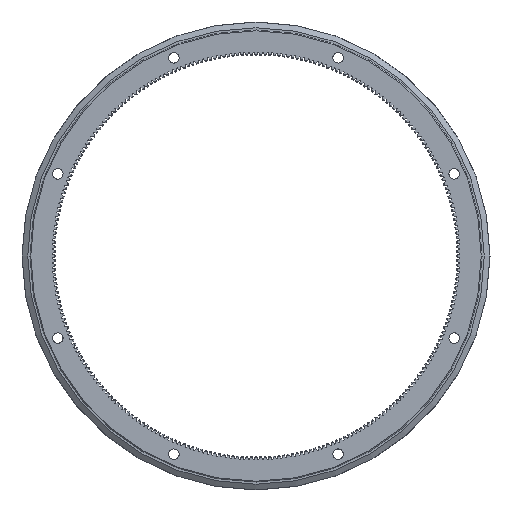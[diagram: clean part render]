
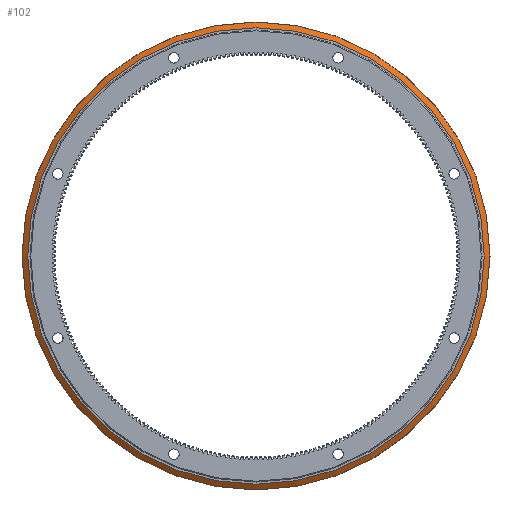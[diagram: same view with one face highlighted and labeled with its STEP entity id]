
A CAD part, front view. The second image highlights one B-rep face of the part: STEP entity #102.
In plain terms, the highlighted conical face has half-angle 55 degrees and reference radius 111.479 mm.
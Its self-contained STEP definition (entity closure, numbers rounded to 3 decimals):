
#102=ADVANCED_FACE('',(#1551,#1552),#1553,.T.);
#1551=FACE_BOUND('',#4429,.T.);
#1552=FACE_OUTER_BOUND('',#4430,.T.);
#1553=CONICAL_SURFACE('',#4431,111.479,0.96);
#4429=EDGE_LOOP('',(#9531));
#4430=EDGE_LOOP('',(#9532));
#4431=AXIS2_PLACEMENT_3D('',#9533,#9534,#9535);
#9531=ORIENTED_EDGE('',*,*,#22102,.F.);
#9532=ORIENTED_EDGE('',*,*,#22103,.T.);
#9533=CARTESIAN_POINT('',(0.0,7.576,0.0));
#9534=DIRECTION('',(-0.0,1.0,-0.0));
#9535=DIRECTION('',(0.0,0.0,1.0));
#22102=EDGE_CURVE('',#28517,#28517,#28518,.T.);
#22103=EDGE_CURVE('',#28519,#28519,#28520,.T.);
#28517=VERTEX_POINT('',#36603);
#28518=CIRCLE('',#36604,108.943);
#28519=VERTEX_POINT('',#36605);
#28520=CIRCLE('',#36606,111.479);
#36603=CARTESIAN_POINT('',(0.0,5.8,-108.943));
#36604=AXIS2_PLACEMENT_3D('',#46371,#46372,#46373);
#36605=CARTESIAN_POINT('',(0.0,7.576,-111.479));
#36606=AXIS2_PLACEMENT_3D('',#46374,#46375,#46376);
#46371=CARTESIAN_POINT('',(0.0,5.8,0.0));
#46372=DIRECTION('',(0.0,-1.0,0.0));
#46373=DIRECTION('',(0.0,0.0,-1.0));
#46374=CARTESIAN_POINT('',(0.0,7.576,0.0));
#46375=DIRECTION('',(0.0,-1.0,0.0));
#46376=DIRECTION('',(0.0,0.0,-1.0));
